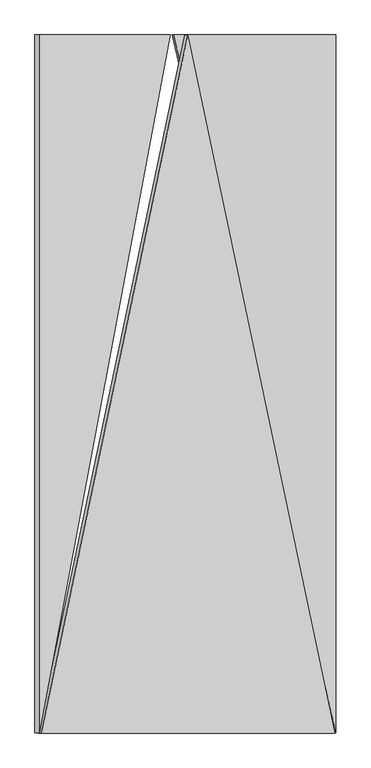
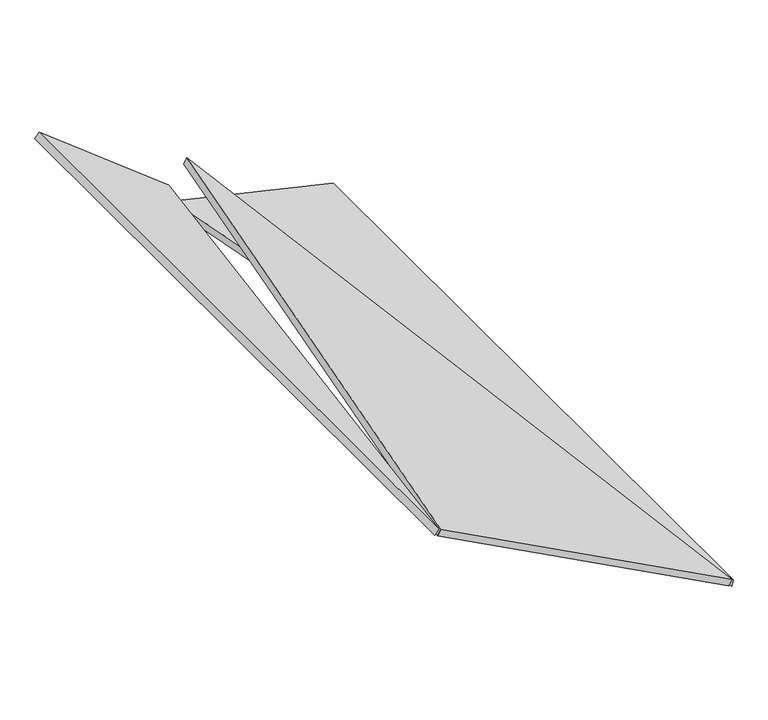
"""IFC4 building model written with IfcOpenShell, lengths in millimetres: proxy geometry, panel sufitowy 6 : panel sufitowy 6."""

import ifcopenshell
import ifcopenshell.guid

model = None  # the IFC model being written
_history = None  # IfcOwnerHistory: only IFC2X3 demands one
_inside = {}  # id of a spatial element -> (the spatial element, [elements in it])
_under = {}  # id of a project, library or spatial element -> (it, [spatial elements below it])
_declared = {}  # id of a project -> (the project, [libraries it declares])
_typed = {}  # id of a type object -> (the type object, [elements of that type])
_made_of = {}  # id of a material, layer set ... -> (it, [elements and type objects made of it])


def new_model(schema):
    """Start an empty IFC model of exactly this schema.

    Asked for "IFC4X3", IfcOpenShell would pick the latest addendum, in which some entities
    have other attributes; the version numbers below select the first issue.
    IFC2X3 requires an IfcOwnerHistory on every rooted entity: one is made here for all.
    """
    global model, _history
    if schema == "IFC4X3":
        model = ifcopenshell.file(schema_version=(4, 3, 0, 0))
    else:
        model = ifcopenshell.file(schema=schema)
    _inside.clear()
    _under.clear()
    _declared.clear()
    _typed.clear()
    _made_of.clear()
    _history = None
    if model.schema == "IFC2X3":
        org = make("IfcOrganization", Name="unknown")
        user = make(
            "IfcPersonAndOrganization",
            ThePerson=make("IfcPerson", FamilyName="unknown"),
            TheOrganization=org,
        )
        app = make(
            "IfcApplication",
            ApplicationDeveloper=org,
            Version="unknown",
            ApplicationFullName="unknown",
            ApplicationIdentifier="unknown",
        )
        _history = make(
            "IfcOwnerHistory",
            OwningUser=user,
            OwningApplication=app,
            ChangeAction="ADDED",
            CreationDate=0,
        )
    return model


def make(cls, **values):
    """One entity of the class cls with the attributes given. An attribute that is None is left unset."""
    return model.create_entity(
        cls, **{name: value for name, value in values.items() if value is not None}
    )


def rooted(cls, **values):
    """An entity with a GlobalId (a new one), such as an element, a storey or a relation."""
    return make(cls, GlobalId=ifcopenshell.guid.new(), OwnerHistory=_history, **values)


def si_unit(unit_type, name, prefix=None):
    """IfcSIUnit, for example si_unit("LENGTHUNIT", "METRE", prefix="MILLI")."""
    return make("IfcSIUnit", UnitType=unit_type, Prefix=prefix, Name=name)


def assignment(units):
    """IfcUnitAssignment: the units of a project."""
    return None if units is None else make("IfcUnitAssignment", Units=units)


def point(xyz):
    """IfcCartesianPoint."""
    return None if xyz is None else make("IfcCartesianPoint", Coordinates=xyz)


def direction(xyz):
    """IfcDirection."""
    return None if xyz is None else make("IfcDirection", DirectionRatios=xyz)


def frame(location, z_axis=None, x_axis=None):
    """IfcAxis2Placement3D, a coordinate frame: its origin and axes. An axis left out is left unset."""
    return make(
        "IfcAxis2Placement3D",
        Location=point(location),
        Axis=direction(z_axis),
        RefDirection=direction(x_axis),
    )


def origin():
    """The frame at (0, 0, 0) with its axes left unset."""
    return frame((0.0, 0.0, 0.0))


def place(relative_to, where):
    """IfcLocalPlacement: puts the frame where relative to a parent placement (None: the world)."""
    return make(
        "IfcLocalPlacement", PlacementRelTo=relative_to, RelativePlacement=where
    )


def context(
    kind, dimensions, precision=None, world=None, true_north=None, identifier=None
):
    """IfcGeometricRepresentationContext, for example the 3D "Model" context."""
    return make(
        "IfcGeometricRepresentationContext",
        ContextIdentifier=identifier,
        ContextType=kind,
        CoordinateSpaceDimension=dimensions,
        Precision=precision,
        WorldCoordinateSystem=world,
        TrueNorth=true_north,
    )


def project(units=None, contexts=None):
    """IfcProject with its units and contexts."""
    return rooted(
        "IfcProject",
        Name="project",
        RepresentationContexts=contexts,
        UnitsInContext=assignment(units),
    )


def spatial(cls, under=None, at=None, **own):
    """A site, building, storey or space (cls), placed at a placement, below another one or the project."""
    s = rooted(cls, ObjectPlacement=at, **own)
    if under is not None:
        _under.setdefault(under.id(), (under, []))[1].append(s)
    return s


def polyline(points):
    """IfcPolyline through the points."""
    return make("IfcPolyline", Points=[point(p) for p in points])


def outline(outer, holes=None, kind="AREA"):
    """IfcArbitraryClosedProfileDef: a profile drawn as a closed curve; with holes, ...WithVoids."""
    if holes is None:
        return make("IfcArbitraryClosedProfileDef", ProfileType=kind, OuterCurve=outer)
    return make(
        "IfcArbitraryProfileDefWithVoids",
        ProfileType=kind,
        OuterCurve=outer,
        InnerCurves=holes,
    )


def extrude(swept, where, along, depth):
    """IfcExtrudedAreaSolid: the profile swept, set in the frame where, extruded along a direction by depth."""
    return make(
        "IfcExtrudedAreaSolid",
        SweptArea=swept,
        Position=where,
        ExtrudedDirection=direction(along),
        Depth=depth,
    )


def shape(context_of_items, identifier, shape_type, items):
    """IfcShapeRepresentation: the items that make up one representation, for example the "Body"."""
    return make(
        "IfcShapeRepresentation",
        ContextOfItems=context_of_items,
        RepresentationIdentifier=identifier,
        RepresentationType=shape_type,
        Items=items,
    )


def source(mapping_origin, context_of_items, identifier, shape_type, items):
    """IfcRepresentationMap: a shape defined once, which mapped items show again and again."""
    return make(
        "IfcRepresentationMap",
        MappingOrigin=mapping_origin,
        MappedRepresentation=shape(context_of_items, identifier, shape_type, items),
    )


def transform(
    local_origin,
    x_axis=None,
    y_axis=None,
    z_axis=None,
    scale=None,
    scale2=None,
    scale3=None,
    uniform=True,
):
    """IfcCartesianTransformationOperator3D, or its non-uniform kind. x_axis, y_axis, z_axis: its Axis1, 2, 3."""
    if uniform:
        return make(
            "IfcCartesianTransformationOperator3D",
            Axis1=direction(x_axis),
            Axis2=direction(y_axis),
            LocalOrigin=point(local_origin),
            Scale=scale,
            Axis3=direction(z_axis),
        )
    return make(
        "IfcCartesianTransformationOperator3DnonUniform",
        Axis1=direction(x_axis),
        Axis2=direction(y_axis),
        LocalOrigin=point(local_origin),
        Scale=scale,
        Axis3=direction(z_axis),
        Scale2=scale2,
        Scale3=scale3,
    )


def mapped(mapping_source, mapping_target):
    """IfcMappedItem: shows the shape of a source again, moved by a transform."""
    return make(
        "IfcMappedItem", MappingSource=mapping_source, MappingTarget=mapping_target
    )


def made_of(thing, what):
    """Note that an element or type object is made of a material, layer set ...; save() writes the relation."""
    if what is not None:
        _made_of.setdefault(what.id(), (what, []))[1].append(thing)
    return thing


def element(
    cls,
    number,
    at=None,
    inside=None,
    cuts=None,
    type_object=None,
    material=None,
    context=None,
    identifier="Body",
    shape_type=None,
    held_by="IfcProductDefinitionShape",
    body=None,
    shapes=None,
    **own,
):
    """One element of the class cls, such as IfcWall. Its Tag is "e" and its number.

    at: its placement. inside: the storey or other place that contains it. cuts: it is an
    opening in that element (IfcRelVoidsElement). A single representation is given by context,
    identifier, shape_type and body (its items); several are given by shapes. held_by: the class
    of the entity that holds the representations. save() writes the other relations.
    """
    e = rooted(cls, Tag="e%d" % number, ObjectPlacement=at, **own)
    if body is not None:
        shapes = [shape(context, identifier, shape_type, body)]
    if shapes is not None:
        e.Representation = make(held_by, Representations=shapes)
    if inside is not None:
        _inside.setdefault(inside.id(), (inside, []))[1].append(e)
    if cuts is not None:
        rooted(
            "IfcRelVoidsElement", RelatingBuildingElement=cuts, RelatedOpeningElement=e
        )
    if type_object is not None:
        _typed.setdefault(type_object.id(), (type_object, []))[1].append(e)
    return made_of(e, material)


def aggregate(whole, parts):
    """IfcRelAggregates: a whole, such as a stair, and the parts it consists of."""
    return rooted("IfcRelAggregates", RelatingObject=whole, RelatedObjects=parts)


def save(model, path):
    """Write the relations noted so far, then the file.

    IfcRelAggregates (storeys below a building ...), IfcRelContainedInSpatialStructure (elements
    in a storey), IfcRelDefinesByType, IfcRelAssociatesMaterial and IfcRelDeclares: one each for
    every whole, place, type object, material and project.
    """
    for whole, parts in _under.values():
        aggregate(whole, parts)
    for where, things in _inside.values():
        rooted(
            "IfcRelContainedInSpatialStructure",
            RelatedElements=things,
            RelatingStructure=where,
        )
    for kind, things in _typed.values():
        rooted("IfcRelDefinesByType", RelatedObjects=things, RelatingType=kind)
    for what, things in _made_of.values():
        rooted("IfcRelAssociatesMaterial", RelatedObjects=things, RelatingMaterial=what)
    for by, libraries in _declared.values():
        rooted("IfcRelDeclares", RelatingContext=by, RelatedDefinitions=libraries)
    model.write(path)


def generic_models_93fc6445(model_context):
    return source(origin(), model_context, "Body", "SweptSolid", [
        extrude(outline(polyline([(-900.9098917, 0.0), (1006.1909889, 962.7191946), (1235.4098448, 1e-07), (-900.9098917, 0.0)])), frame((477.6535689, 1457.4151922, 928.0384882), z_axis=(0.4694715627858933, 0.0, 0.8829475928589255), x_axis=(-0.20450878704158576, -0.9728062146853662, 0.1087392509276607)), (0.0, 0.0, 1.0), 20.0),
        extrude(outline(polyline([(-127.5, 0.0), (-127.5, -2079.0), (-622.5000001, 0.0), (-127.5, 0.0)])), frame((1231.771457, 2335.0, 564.4410587), z_axis=(0.22495105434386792, 0.0, 0.9743700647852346), x_axis=(0.9743700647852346, 0.0, -0.22495105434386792)), (0.0, 0.0, 1.0), 20.0),
        extrude(outline(polyline([(-127.5, 0.0), (-622.5000001, 0.0), (-127.5, 2079.0), (-127.5, 0.0)])), frame((115.2908338, 2335.0, 1145.7854346), z_axis=(0.6156614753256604, 0.0, 0.7880107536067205), x_axis=(-0.7880107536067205, 0.0, 0.6156614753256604)), (0.0, 0.0, 1.0), 20.0),
    ])


if __name__ == "__main__":
    model = new_model("IFC4")
    model_context = context("Model", 3, world=origin())
    ifc_project = project(units=[si_unit("LENGTHUNIT", "METRE", prefix="MILLI")], contexts=[model_context])
    site = spatial("IfcSite", under=ifc_project)
    building = spatial("IfcBuilding", under=site)
    placement = place(None, origin())
    generic_models_shape = generic_models_93fc6445(model_context)
    element("IfcBuildingElementProxy", 1, Name="panel sufitowy 6 : panel sufitowy 6", ObjectType="panel sufitowy 6 : panel sufitowy 6", at=placement, inside=building, context=model_context, shape_type="MappedRepresentation", body=[
        mapped(generic_models_shape, transform((0.0, 0.0, 0.0), x_axis=(1.0, 0.0, 0.0), y_axis=(0.0, 1.0, 0.0), z_axis=(0.0, 0.0, 1.0))),
    ])
    save(model, "model.ifc")
